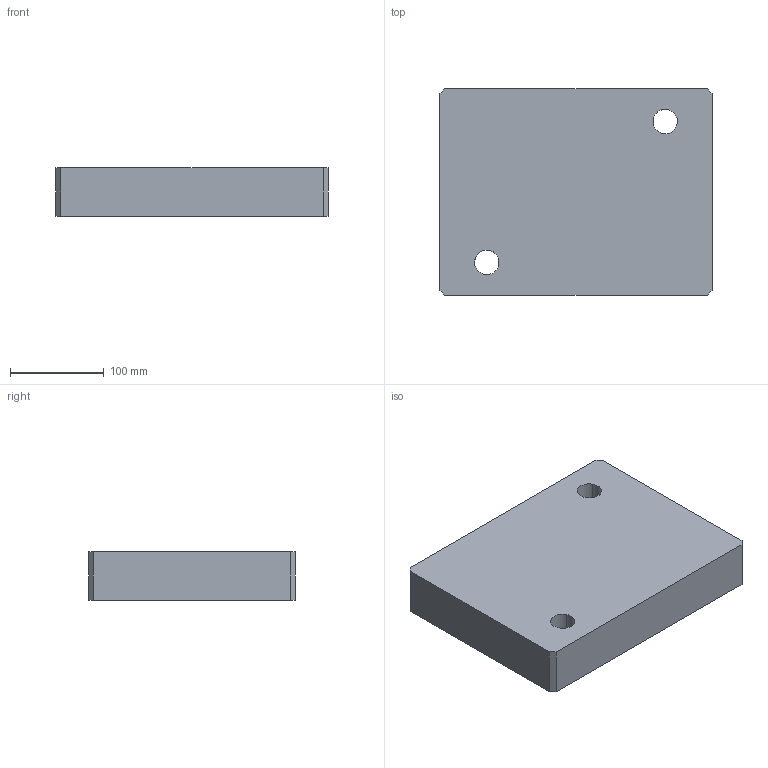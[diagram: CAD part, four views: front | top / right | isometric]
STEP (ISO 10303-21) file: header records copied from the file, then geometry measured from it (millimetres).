
FILE_DESCRIPTION(('CATIA V5 STEP Exchange','CAx-IF Rec.Pracs.--- Model Styling and Organization---1.5--- 2016-08-15','CAx-IF Rec.Pracs.---Supplemental Geometry---1.0---2011-11-01','CAx-IF Rec.Pracs.--- Composite Materials ---1.1---2010-07-15','CAx-IF Rec.Pracs.---External References---2.1---2005-01-19'),'2;1');
FILE_NAME('E:\WAT\Sprezarka\122_00_00_Tlocznik2\Tlocznik2_KPL\Tlocznik2_stp\122_01_02_Plyta.stp','2023-08-01T08:40:09+00:00',('none'),('none'),'CATIA Version 5-6 Release 2022 SP3','CATIA V5 STEP AP214 v2','none');
FILE_SCHEMA(('AUTOMOTIVE_DESIGN { 1 0 10303 214 1 1 1 1 }'));
Length unit declared in the file: millimetre
Products named in the file (1): 122_01_02_Plyta
Bounding box: 290 x 220 x 52 mm (x, y, z)
Volume: 3227776 mm3; surface area: 201520.7 mm2
Topology: 1 solids, 1 shells, 134 faces, 336 edges, 184 vertices
Faces by surface type: cylinder 64, cone 48, plane 22
Entity records: 3418 total; most frequent: ORIENTED_EDGE 576, CARTESIAN_POINT 553, DIRECTION 448, EDGE_CURVE 288, AXIS2_PLACEMENT_3D 209, VERTEX_POINT 184, EDGE_LOOP 166, VECTOR 160
